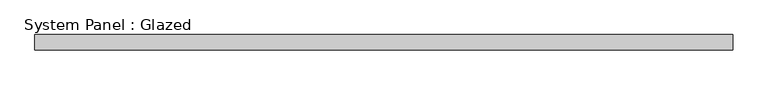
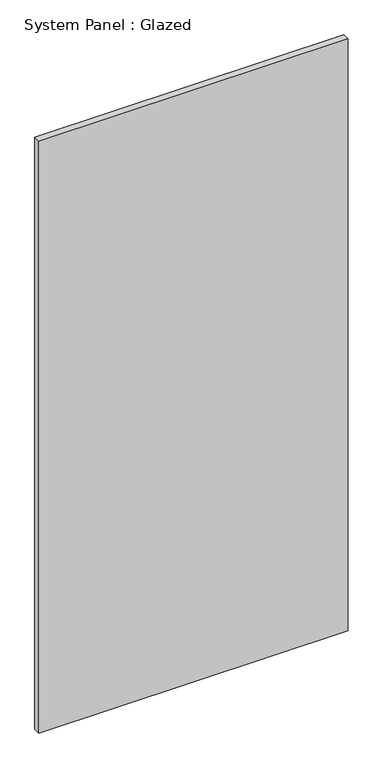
"""IFC4 building model written with IfcOpenShell, lengths in millimetres: plate geometry, System Panel : Glazed."""

from ifc_helpers import new_model, si_unit, origin, origin_with_axes, place, context, project, spatial, polyline, outline, extrude, source, transform, mapped, element, save


def system_panel_glazed_f68d4846(model_context):
    return source(origin(), model_context, "Body", "SweptSolid", [
        extrude(outline(polyline([(575.0, 24.5), (-575.0, 24.5), (-575.0, 49.5), (575.0, 49.5), (575.0, 24.5)])), origin_with_axes(), (0.0, 0.0, 1.0), 2325.0),
    ])


if __name__ == "__main__":
    model = new_model("IFC4")
    model_context = context("Model", 3, world=origin())
    ifc_project = project(units=[si_unit("LENGTHUNIT", "METRE", prefix="MILLI")], contexts=[model_context])
    site = spatial("IfcSite", under=ifc_project)
    building = spatial("IfcBuilding", under=site)
    placement = place(None, origin())
    system_panel_glazed_shape = system_panel_glazed_f68d4846(model_context)
    element("IfcPlate", 1, ObjectType="System Panel : Glazed", at=placement, inside=building, context=model_context, shape_type="MappedRepresentation", body=[
        mapped(system_panel_glazed_shape, transform((0.0, 0.0, 0.0), x_axis=(1.0, 0.0, 0.0), y_axis=(0.0, 1.0, 0.0), z_axis=(0.0, 0.0, 1.0))),
    ])
    save(model, "model.ifc")
